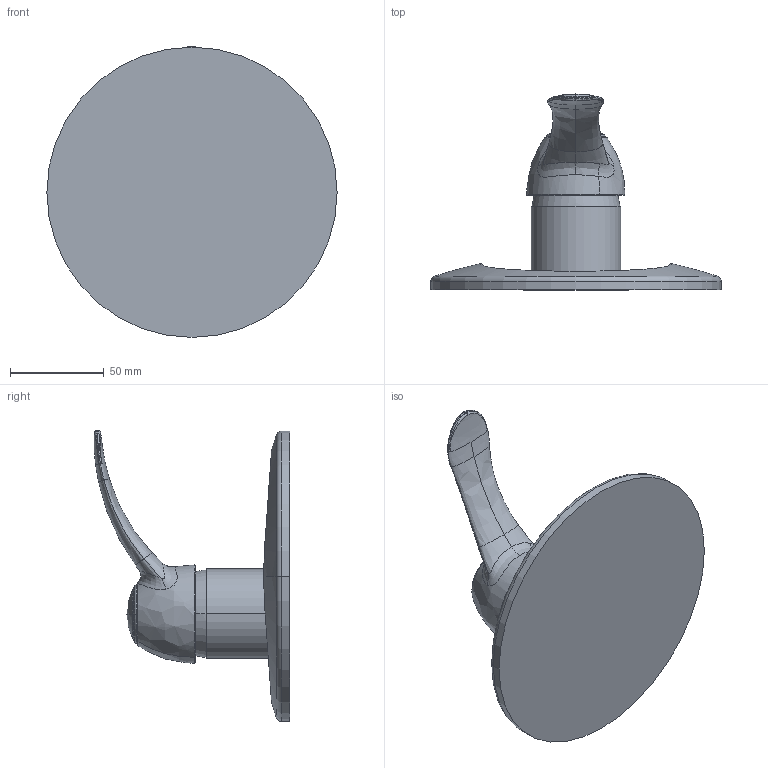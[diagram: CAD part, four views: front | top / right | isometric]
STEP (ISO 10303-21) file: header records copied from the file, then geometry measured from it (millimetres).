
FILE_DESCRIPTION((''),'2;1');
FILE_NAME('F3309X1_FILE_3D','2013-08-06T',('ivanv'),(''),'PRO/ENGINEER BY PARAMETRIC TECHNOLOGY CORPORATION, 2012130','PRO/ENGINEER BY PARAMETRIC TECHNOLOGY CORPORATION, 2012130','');
FILE_SCHEMA(('CONFIG_CONTROL_DESIGN'));
Length unit declared in the file: millimetre
Products named in the file (1): F3309X1_FILE_3D
Bounding box: 155 x 104.44 x 155.3 mm (x, y, z)
Volume: 313915 mm3; surface area: 56917.6 mm2
Topology: 1 solids, 1 shells, 80 faces, 171 edges, 95 vertices
Faces by surface type: bspline 40, torus 17, cylinder 8, plane 7, sphere 6, cone 2
Entity records: 10051 total; most frequent: CARTESIAN_POINT 8525, ORIENTED_EDGE 338, DIRECTION 254, EDGE_CURVE 169, AXIS2_PLACEMENT_3D 119, VERTEX_POINT 95, EDGE_LOOP 84, FACE_OUTER_BOUND 80
